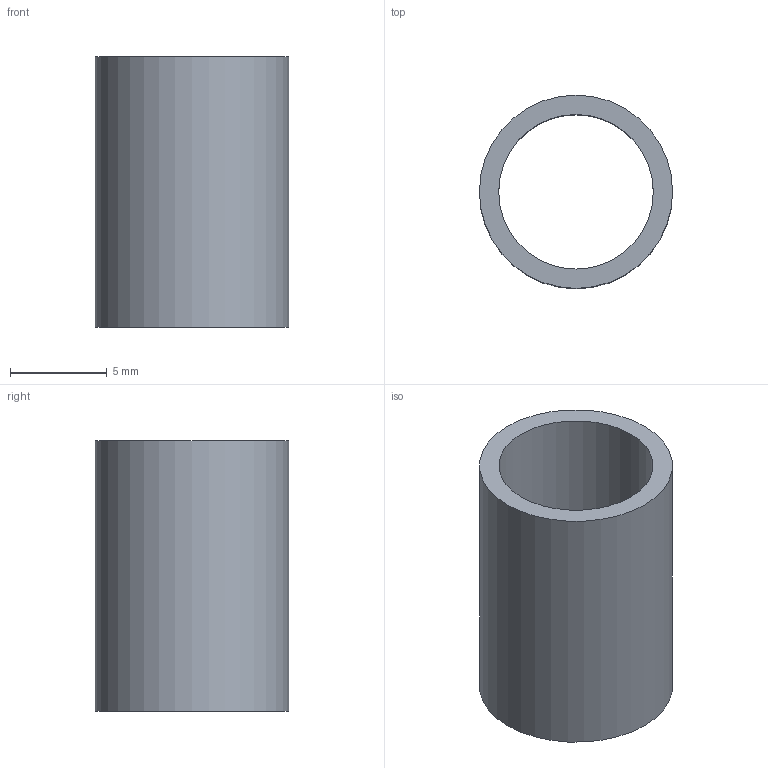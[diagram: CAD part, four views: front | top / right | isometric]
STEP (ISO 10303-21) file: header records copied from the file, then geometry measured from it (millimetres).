
FILE_DESCRIPTION(/* description */ ('CANON Ø8 Ø10 L14','CAx-IF Rec.Pracs.---Representation and Presentation of Product Manufacturing Information (PMI)---4.0---2014-10-13'),/* implementation_level */ '2;1');
FILE_NAME(/* name */ 'vv310038-A.stp',/* time_stamp */ '2025-09-29T11:38:03+02:00',/* author */ ('akrim'),/* organization */ (''),/* preprocessor_version */ 'ST-DEVELOPER v20',/* originating_system */ 'Autodesk Inventor 2025',/* authorisation */ '');
FILE_SCHEMA (('AP242_MANAGED_MODEL_BASED_3D_ENGINEERING_MIM_LF { 1 0 10303 442 1 1 4 }'));
Length unit declared in the file: millimetre
Products named in the file (1): VICTOR.V.31.00.38
Bounding box: 10 x 10 x 14 mm (x, y, z)
Volume: 395.8 mm3; surface area: 848.2 mm2
Topology: 1 solids, 1 shells, 4 faces, 6 edges, 4 vertices
Faces by surface type: plane 2, cylinder 2
Full cylindrical faces by diameter (mm): 8 x1, 10 x1
Entity records: 204 total; most frequent: DIRECTION 32, CARTESIAN_POINT 23, AXIS2_PLACEMENT_3D 15, ORIENTED_EDGE 12, STYLED_ITEM 6, EDGE_LOOP 6, CIRCLE 6, EDGE_CURVE 6
